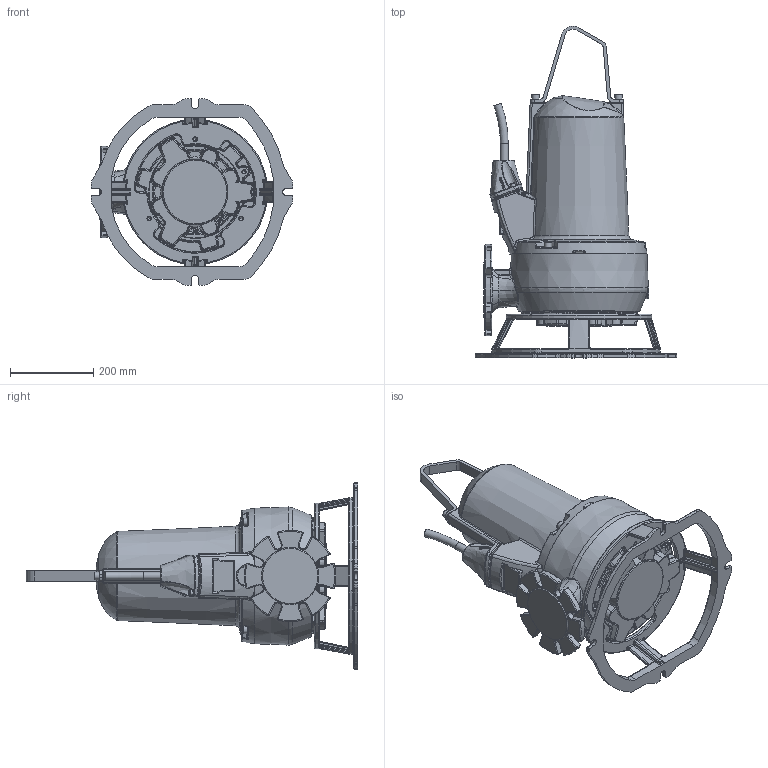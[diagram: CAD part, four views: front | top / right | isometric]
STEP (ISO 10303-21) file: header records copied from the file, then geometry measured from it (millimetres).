
FILE_DESCRIPTION (( 'STEP AP203' ), '1' );
FILE_NAME ('XFP80E-CB1_PE2A_Wet_Transportable-.step', '2024-01-16T15:56:21', ( '' ), ( '' ), 'SwSTEP 2.0', 'SolidWorks 2017', '' );
FILE_SCHEMA (( 'CONFIG_CONTROL_DESIGN' ));
Products named in the file (2): XFP80E-CB1_PE2A_Wet_Transportable-
Bounding box: 485 x 798.93 x 450 mm (x, y, z)
Volume: 32167080.9 mm3; surface area: 1082913.1 mm2
Topology: 12 solids, 13 shells, 2424 faces, 5809 edges, 3304 vertices
Faces by surface type: bspline 948, cylinder 574, plane 410, torus 334, cone 81, sphere 77
Full cylindrical faces by diameter (mm): 6 x1, 6.8 x2, 8 x4, 8.5 x4, 9 x2, 10 x4, 10.2 x5, 11 x3, 12 x10, 12.5 x2, 13 x5, 18 x5, 18.7 x1, 62 x1, 133 x1, 222 x1, 350 x1
Entity records: 112683 total; most frequent: CARTESIAN_POINT 64806, ORIENTED_EDGE 11038, DIRECTION 8395, EDGE_CURVE 5519, AXIS2_PLACEMENT_3D 3523, VERTEX_POINT 3272, EDGE_LOOP 2599, FACE_OUTER_BOUND 2504
